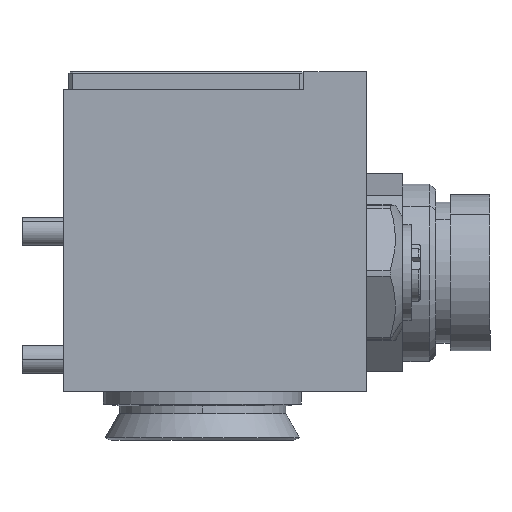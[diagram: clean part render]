
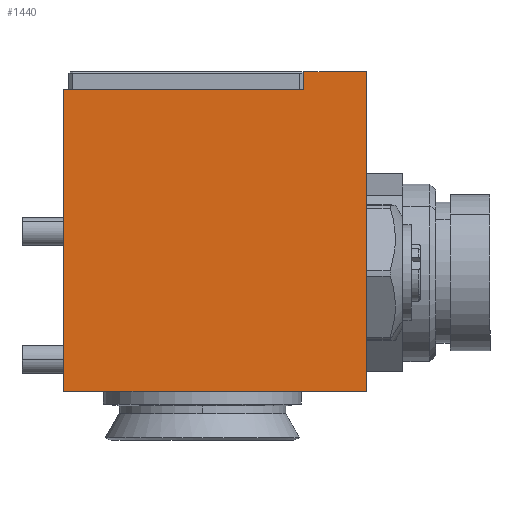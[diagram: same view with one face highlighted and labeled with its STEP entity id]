
A CAD part, front view. The second image highlights one B-rep face of the part: STEP entity #1440.
In plain terms, the highlighted planar face has unit normal (0, -1, 0).
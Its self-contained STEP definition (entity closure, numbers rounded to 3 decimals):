
#398=PLANE('',#17520);
#1440=ADVANCED_FACE('',(#2827),#398,.T.);
#2827=FACE_OUTER_BOUND('',#3829,.T.);
#3829=EDGE_LOOP('',(#8734,#8735,#8736,#8737,#8738,#8739));
#6013=LINE('',#25181,#7278);
#6058=LINE('',#25352,#7323);
#6062=LINE('',#25362,#7327);
#6063=LINE('',#25365,#7328);
#6064=LINE('',#25366,#7329);
#6065=LINE('',#25367,#7330);
#7278=VECTOR('',#19688,1.);
#7323=VECTOR('',#19845,1.);
#7327=VECTOR('',#19853,1.);
#7328=VECTOR('',#19854,1.);
#7329=VECTOR('',#19855,1.);
#7330=VECTOR('',#19856,1.);
#8734=ORIENTED_EDGE('',*,*,#15128,.F.);
#8735=ORIENTED_EDGE('',*,*,#15129,.F.);
#8736=ORIENTED_EDGE('',*,*,#15123,.F.);
#8737=ORIENTED_EDGE('',*,*,#15130,.T.);
#8738=ORIENTED_EDGE('',*,*,#15038,.T.);
#8739=ORIENTED_EDGE('',*,*,#15131,.F.);
#13522=VERTEX_POINT('',#25179);
#13524=VERTEX_POINT('',#25182);
#13594=VERTEX_POINT('',#25353);
#13595=VERTEX_POINT('',#25354);
#13598=VERTEX_POINT('',#25363);
#13599=VERTEX_POINT('',#25364);
#15038=EDGE_CURVE('',#13524,#13522,#6013,.T.);
#15123=EDGE_CURVE('',#13594,#13595,#6058,.T.);
#15128=EDGE_CURVE('',#13598,#13599,#6062,.T.);
#15129=EDGE_CURVE('',#13595,#13598,#6063,.T.);
#15130=EDGE_CURVE('',#13594,#13524,#6064,.T.);
#15131=EDGE_CURVE('',#13599,#13522,#6065,.T.);
#17520=AXIS2_PLACEMENT_3D('',#25368,#19857,#19858);
#19688=DIRECTION('',(0.,0.,1.));
#19845=DIRECTION('',(0.,0.,1.));
#19853=DIRECTION('',(0.,0.,1.));
#19854=DIRECTION('',(1.,0.,0.));
#19855=DIRECTION('',(1.,0.,0.));
#19856=DIRECTION('',(1.,0.,0.));
#19857=DIRECTION('',(0.,-1.,0.));
#19858=DIRECTION('',(0.,0.,-1.));
#25179=CARTESIAN_POINT('',(74.617,-75.407,27.25));
#25181=CARTESIAN_POINT('',(74.617,-75.407,-17.75));
#25182=CARTESIAN_POINT('',(74.617,-75.407,-17.75));
#25352=CARTESIAN_POINT('',(32.017,-75.407,-17.75));
#25353=CARTESIAN_POINT('',(32.017,-75.407,-17.75));
#25354=CARTESIAN_POINT('',(32.017,-75.407,24.75));
#25362=CARTESIAN_POINT('',(65.817,-75.407,24.75));
#25363=CARTESIAN_POINT('',(65.817,-75.407,24.75));
#25364=CARTESIAN_POINT('',(65.817,-75.407,27.25));
#25365=CARTESIAN_POINT('',(32.017,-75.407,24.75));
#25366=CARTESIAN_POINT('',(74.617,-75.407,-17.75));
#25367=CARTESIAN_POINT('',(74.617,-75.407,27.25));
#25368=CARTESIAN_POINT('',(74.617,-75.407,-17.75));
